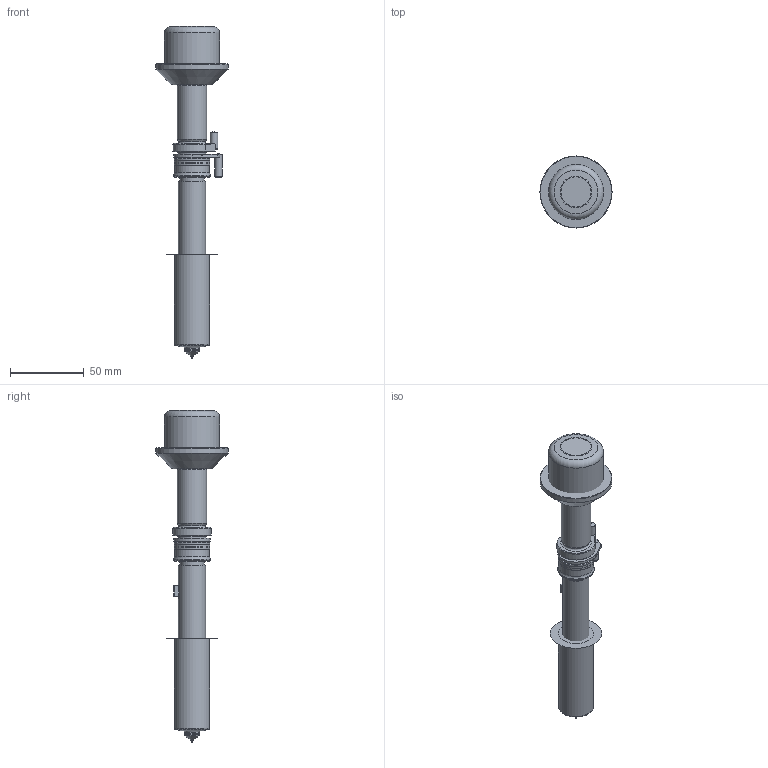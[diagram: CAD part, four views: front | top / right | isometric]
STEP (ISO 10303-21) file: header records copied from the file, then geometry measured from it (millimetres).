
FILE_DESCRIPTION(/* description */ (''),/* implementation_level */ '2;1');
FILE_NAME(/* name */ 'UH500 T2.stp',/* time_stamp */ '2021-12-24T16:07:03+08:00',/* author */ (''),/* organization */ (''),/* preprocessor_version */ 'ST-DEVELOPER v16',/* originating_system */ 'SIEMENS PLM Software NX 11.0',/* authorisation */ '');
FILE_SCHEMA (('AUTOMOTIVE_DESIGN { 1 0 10303 214 3 1 1 1 }'));
Length unit declared in the file: millimetre
Products named in the file (23): 3D_EXPORT_3D_ASSY_11314445_0_id121_x_t; 3D_EXPORT_3D_ASSY_11314445_0_id116_x_t; 3D_EXPORT_3D_ASSY_11314445_0_id111_x_t; 3D_EXPORT_3D_ASSY_11314445_0_id106_x_t; 3D_EXPORT_3D_ASSY_11314445_0_id101_x_t; 3D_EXPORT_3D_ASSY_11314445_0_id94_x_t; 3D_EXPORT_3D_ASSY_11314445_0_id89_x_t; 3D_EXPORT_3D_ASSY_11314445_0_id84_x_t; 3D_EXPORT_3D_ASSY_11314445_0_id79_x_t; 3D_EXPORT_3D_ASSY_11314445_0_id74_x_t; 3D_EXPORT_3D_ASSY_11314445_0_id69_x_t; 3D_EXPORT_3D_ASSY_11314445_0_id60_x_t; 3D_EXPORT_3D_ASSY_11314445_0_id55_x_t; 3D_EXPORT_3D_ASSY_11314445_0_id50_x_t; 3D_EXPORT_3D_ASSY_11314445_0_id45_x_t; 3D_EXPORT_3D_ASSY_11314445_0_id40_x_t; 3D_EXPORT_3D_ASSY_11314445_0_id31_x_t; 3D_EXPORT_3D_ASSY_11314445_0_id26_x_t; 3D_EXPORT_3D_ASSY_11314445_0_id21_x_t; 3D_EXPORT_3D_ASSY_11314445_0_id16_x_t; 3D_EXPORT_3D_ASSY_11314445_0_id11_x_t; 3D_EXPORT_3D_ASSY_11314445_0_id6_x_t; 3D_EXPORT_3D_ASSY_11314445_0_x_t
Assembly tree (27 placements, depth 2):
  3D_EXPORT_3D_ASSY_11314445_0_x_t
    3D_EXPORT_3D_ASSY_11314445_0_id6_x_t
    3D_EXPORT_3D_ASSY_11314445_0_id11_x_t
    3D_EXPORT_3D_ASSY_11314445_0_id16_x_t
    3D_EXPORT_3D_ASSY_11314445_0_id21_x_t
    3D_EXPORT_3D_ASSY_11314445_0_id26_x_t
    3D_EXPORT_3D_ASSY_11314445_0_id31_x_t  x3
    3D_EXPORT_3D_ASSY_11314445_0_id40_x_t
    3D_EXPORT_3D_ASSY_11314445_0_id45_x_t
    3D_EXPORT_3D_ASSY_11314445_0_id50_x_t
    3D_EXPORT_3D_ASSY_11314445_0_id55_x_t
    3D_EXPORT_3D_ASSY_11314445_0_id60_x_t  x3
    3D_EXPORT_3D_ASSY_11314445_0_id69_x_t
    3D_EXPORT_3D_ASSY_11314445_0_id74_x_t
    3D_EXPORT_3D_ASSY_11314445_0_id79_x_t
    3D_EXPORT_3D_ASSY_11314445_0_id84_x_t
    3D_EXPORT_3D_ASSY_11314445_0_id89_x_t
    3D_EXPORT_3D_ASSY_11314445_0_id94_x_t  x2
    3D_EXPORT_3D_ASSY_11314445_0_id101_x_t
    3D_EXPORT_3D_ASSY_11314445_0_id106_x_t
    3D_EXPORT_3D_ASSY_11314445_0_id111_x_t
    3D_EXPORT_3D_ASSY_11314445_0_id116_x_t
    3D_EXPORT_3D_ASSY_11314445_0_id121_x_t
Bounding box: 49 x 49 x 225.54 mm (x, y, z)
Volume: 140220 mm3; surface area: 51262.3 mm2
Topology: 27 solids, 27 shells, 310 faces, 627 edges, 393 vertices
Faces by surface type: plane 128, cylinder 92, cone 47, torus 39, sphere 3, bspline 1
Full cylindrical faces by diameter (mm): 1 x3, 1.2 x2, 1.7 x2, 2.96 x1, 2.985 x1, 4.027 x3, 4.395 x1, 4.4 x1, 5 x2, 6.895 x1, 7.25 x1, 7.4 x1, 7.5 x1, 8.944 x1, 10.01 x2, 10.5 x1, 11.5 x1, 11.86 x1, 12.3 x1, 12.494 x1, 12.5 x2, 12.66 x1, 12.7 x1, 12.715 x2, 12.735 x1, 12.76 x1, 13.005 x3, 13.23 x1, 13.725 x2, 16.307 x3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
Entity records: 9513 total; most frequent: CARTESIAN_POINT 1486, DIRECTION 1268, ORIENTED_EDGE 840, AXIS2_PLACEMENT_3D 558, EDGE_LOOP 447, EDGE_CURVE 420, VERTEX_POINT 332, FACE_BOUND 324
